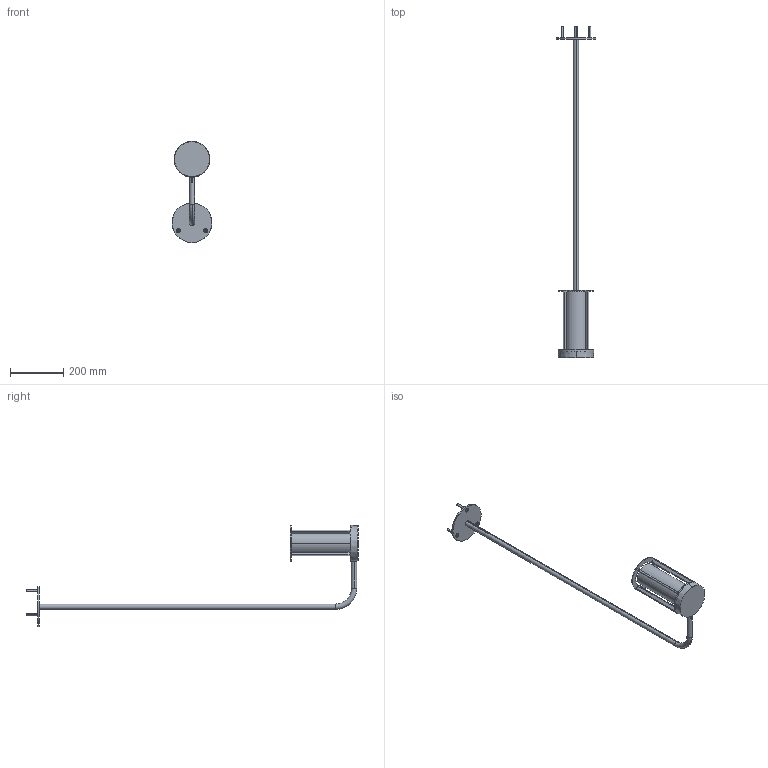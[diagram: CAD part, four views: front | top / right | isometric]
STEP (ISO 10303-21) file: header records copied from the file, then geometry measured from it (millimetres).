
FILE_DESCRIPTION((''),'2;1');
FILE_NAME('STELO-1200_SW0001','2025-07-24T08:15:56',('Piccioli'),(''),'CREO PARAMETRIC BY PTC INC, 2025010','CREO PARAMETRIC BY PTC INC, 2025010','');
FILE_SCHEMA(('CONFIG_CONTROL_DESIGN'));
Length unit declared in the file: millimetre
Products named in the file (1): STELO-1200_SW0001
Bounding box: 150 x 1250 x 381.5 mm (x, y, z)
Surface area: 342658.4 mm2 (no closed solid volume)
Topology: 0 solids, 41 shells, 101 faces, 684 edges, 620 vertices
Faces by surface type: plane 45, cylinder 24, cone 16, torus 12, bspline 4
Entity records: 8847 total; most frequent: CARTESIAN_POINT 4141, DIRECTION 812, ORIENTED_EDGE 800, EDGE_CURVE 684, VERTEX_POINT 620, AXIS2_PLACEMENT_3D 279, VECTOR 254, LINE 254
